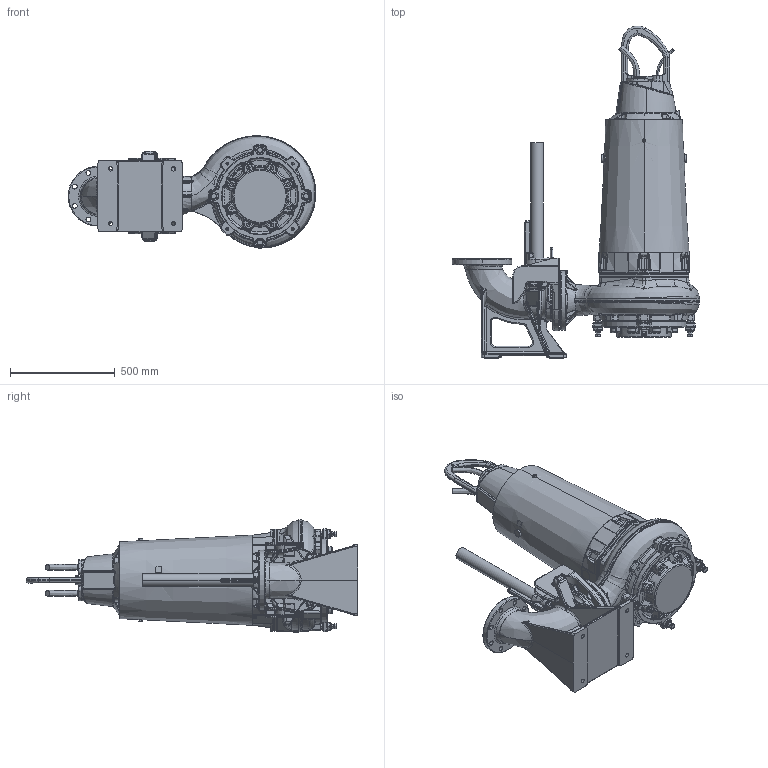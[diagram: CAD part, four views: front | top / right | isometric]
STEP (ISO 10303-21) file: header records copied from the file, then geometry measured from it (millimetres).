
FILE_DESCRIPTION (( 'STEP AP214' ), '1' );
FILE_NAME ('PE4_XFP155J-CB2_WET_A_NG2.STEP', '2017-01-23T12:51:14', ( '' ), ( '' ), 'SwSTEP 2.0', 'SolidWorks 2017', '' );
FILE_SCHEMA (( 'AUTOMOTIVE_DESIGN' ));
Length unit declared in the file: millimetre
Products named in the file (1): PE4_XFP155J-CB2_WET_A_NG2
Bounding box: 1180.59 x 1581.98 x 536.4 mm (x, y, z)
Volume: 181208790 mm3; surface area: 4119577.6 mm2
Topology: 4 solids, 24 shells, 4459 faces, 11038 edges, 6489 vertices
Faces by surface type: bspline 1392, cylinder 1048, plane 1038, cone 443, torus 386, sphere 152
Entity records: 285031 total; most frequent: CARTESIAN_POINT 142180, ORIENTED_EDGE 21674, DIRECTION 17178, EDGE_CURVE 10837, AXIS2_PLACEMENT_3D 6976, VERTEX_POINT 6481, EDGE_LOOP 4640, UNCERTAINTY_MEASURE_WITH_UNIT 4465
